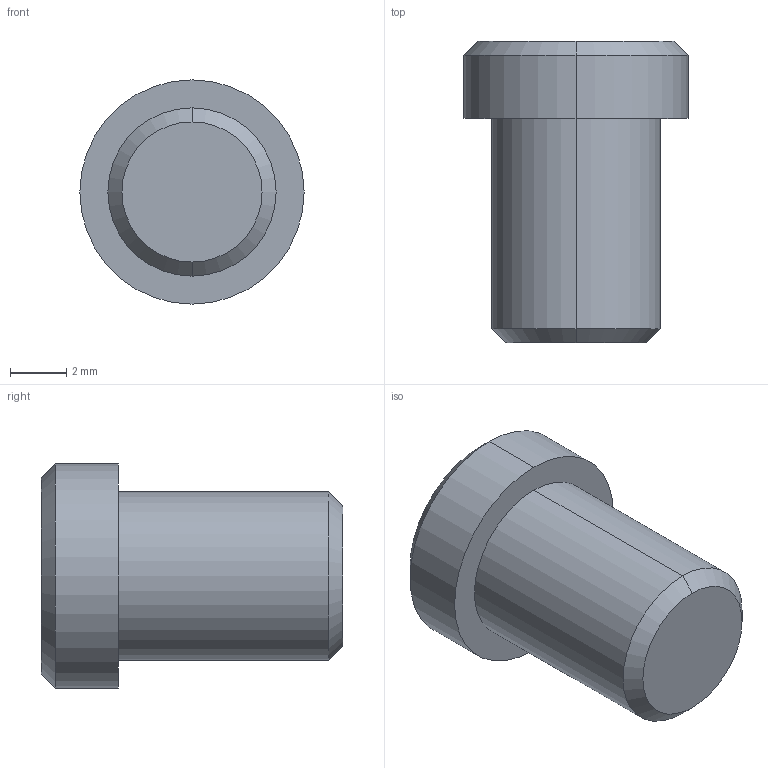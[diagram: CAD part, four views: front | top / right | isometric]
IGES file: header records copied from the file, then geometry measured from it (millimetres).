
Start section: 3D InterOp IGES (v. 2019 1.0.2), Spatial Corp. Copyright (c) 1999-2017.
Global section: file name: SS SDP8.igs; native system: Spatial Corp.; preprocessor: 3D InterOp GENERIC/IGES 3.0; author: Noname; organization: Noname; date: 20220628.112212; units: millimetre
Bounding box: 8 x 10.75 x 8 mm (x, y, z)
Surface area: 306.9 mm2 (no closed solid volume)
Topology: 0 solids, 0 shells, 11 faces, 40 edges, 40 vertices
Faces by surface type: revolution 8, extrusion 3
